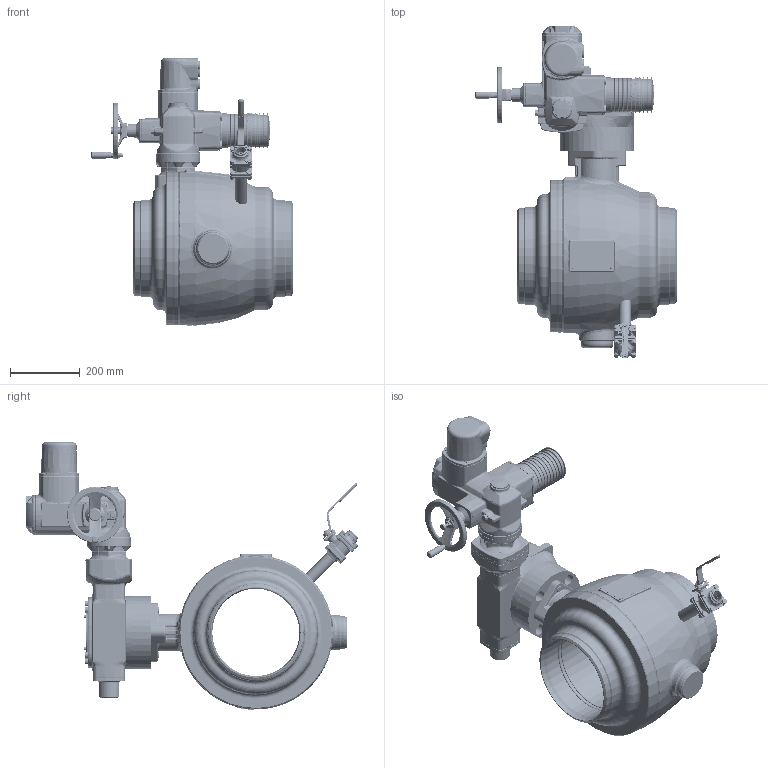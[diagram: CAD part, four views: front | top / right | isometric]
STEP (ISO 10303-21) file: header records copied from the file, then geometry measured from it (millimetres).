
FILE_DESCRIPTION((''),'2;1');
FILE_NAME('ASM0001_ASM','2026-01-28T10:34:31',('schwaba'),('KLINGER'),'CREO PARAMETRIC BY PTC INC, 2023014','CREO PARAMETRIC BY PTC INC, 2023014','');
FILE_SCHEMA(('CONFIG_CONTROL_DESIGN'));
Products named in the file (7): KHSVI_250_FG_FR_WE_F16_ENTL; GS100_3_F16_126-208; AUFSATZFLANSCH_F10_GS100-GS200; ZYLSCHR-ISKT--M8X25---8_8; GS100_3_126-208_F16---------F10_ASM; SA07_2-6_F10_STD; ASM0001_ASM
Assembly tree (9 placements, depth 3):
  ASM0001_ASM
    KHSVI_250_FG_FR_WE_F16_ENTL
    GS100_3_126-208_F16---------F10_ASM
      GS100_3_F16_126-208
      AUFSATZFLANSCH_F10_GS100-GS200
      ZYLSCHR-ISKT--M8X25---8_8  x4
    SA07_2-6_F10_STD
Bounding box: 577.1 x 951.44 x 767.31 mm (x, y, z)
Volume: 33302749.1 mm3; surface area: 3586898.1 mm2
Topology: 8 solids, 17 shells, 5954 faces, 14155 edges, 8352 vertices
Faces by surface type: plane 1460, cylinder 1406, bspline 1216, torus 1030, cone 704, extrusion 63, sphere 52, revolution 23
Entity records: 340298 total; most frequent: CARTESIAN_POINT 213935, ORIENTED_EDGE 27786, DIRECTION 24504, EDGE_CURVE 13896, AXIS2_PLACEMENT_3D 10317, VERTEX_POINT 8246, EDGE_LOOP 6212, FACE_OUTER_BOUND 5881
